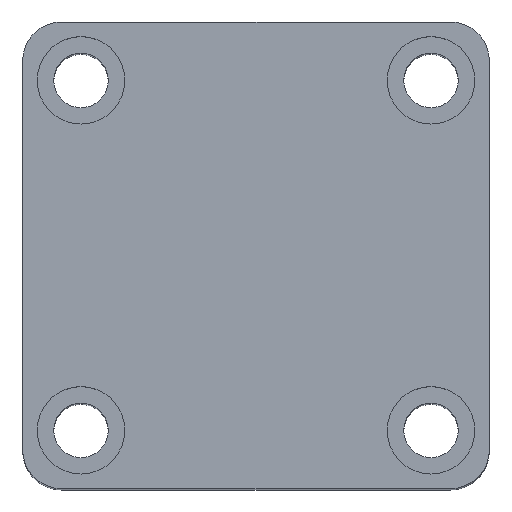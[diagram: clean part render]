
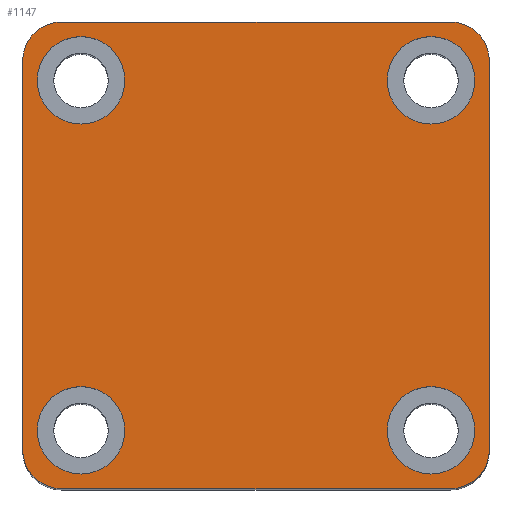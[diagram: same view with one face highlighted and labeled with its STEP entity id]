
A CAD part, top view. The second image highlights one B-rep face of the part: STEP entity #1147.
In plain terms, the highlighted planar face has unit normal (0, 0, 1).
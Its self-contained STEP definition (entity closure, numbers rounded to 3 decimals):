
#18 = VERTEX_POINT ( 'NONE', #1489 ) ;
#23 = VERTEX_POINT ( 'NONE', #1485 ) ;
#40 = VERTEX_POINT ( 'NONE', #1419 ) ;
#49 = VERTEX_POINT ( 'NONE', #1428 ) ;
#56 = VERTEX_POINT ( 'NONE', #1409 ) ;
#68 = VERTEX_POINT ( 'NONE', #1372 ) ;
#73 = VERTEX_POINT ( 'NONE', #1370 ) ;
#74 = VERTEX_POINT ( 'NONE', #1382 ) ;
#76 = VERTEX_POINT ( 'NONE', #1369 ) ;
#101 = VERTEX_POINT ( 'NONE', #1334 ) ;
#125 = VERTEX_POINT ( 'NONE', #1289 ) ;
#128 = VERTEX_POINT ( 'NONE', #1287 ) ;
#141 = VERTEX_POINT ( 'NONE', #1254 ) ;
#145 = VERTEX_POINT ( 'NONE', #1247 ) ;
#148 = VERTEX_POINT ( 'NONE', #1242 ) ;
#149 = VERTEX_POINT ( 'NONE', #1237 ) ;
#336 = ORIENTED_EDGE ( 'NONE', *, *, #623, .F. ) ;
#338 = ORIENTED_EDGE ( 'NONE', *, *, #737, .F. ) ;
#339 = ORIENTED_EDGE ( 'NONE', *, *, #2772, .F. ) ;
#340 = ORIENTED_EDGE ( 'NONE', *, *, #724, .F. ) ;
#535 = CIRCLE ( 'NONE', #1710, 4.5 ) ;
#619 = AXIS2_PLACEMENT_3D ( 'NONE', #1570, #1569, #1568 ) ;
#623 = EDGE_CURVE ( 'NONE', #101, #125, #888, .T. ) ;
#666 = EDGE_CURVE ( 'NONE', #18, #149, #844, .T. ) ;
#698 = EDGE_CURVE ( 'NONE', #148, #23, #807, .T. ) ;
#705 = EDGE_CURVE ( 'NONE', #141, #40, #797, .T. ) ;
#708 = EDGE_CURVE ( 'NONE', #73, #74, #793, .T. ) ;
#711 = EDGE_CURVE ( 'NONE', #76, #148, #790, .T. ) ;
#713 = EDGE_CURVE ( 'NONE', #40, #141, #789, .T. ) ;
#724 = EDGE_CURVE ( 'NONE', #56, #128, #778, .T. ) ;
#726 = EDGE_CURVE ( 'NONE', #145, #76, #770, .T. ) ;
#730 = EDGE_CURVE ( 'NONE', #23, #49, #765, .T. ) ;
#736 = EDGE_CURVE ( 'NONE', #68, #145, #758, .T. ) ;
#737 = EDGE_CURVE ( 'NONE', #125, #101, #762, .T. ) ;
#748 = EDGE_CURVE ( 'NONE', #74, #68, #2068, .T. ) ;
#750 = EDGE_CURVE ( 'NONE', #149, #18, #2069, .T. ) ;
#754 = EDGE_CURVE ( 'NONE', #49, #73, #2061, .T. ) ;
#758 = CIRCLE ( 'NONE', #1797, 4. ) ;
#762 = CIRCLE ( 'NONE', #1796, 4.5 ) ;
#765 = CIRCLE ( 'NONE', #1800, 4. ) ;
#766 = VECTOR ( 'NONE', #2673, 1000. ) ;
#770 = LINE ( 'NONE', #2680, #766 ) ;
#778 = CIRCLE ( 'NONE', #1804, 4.5 ) ;
#789 = CIRCLE ( 'NONE', #1809, 4.5 ) ;
#790 = CIRCLE ( 'NONE', #1810, 4. ) ;
#793 = CIRCLE ( 'NONE', #1813, 4. ) ;
#797 = CIRCLE ( 'NONE', #1816, 4.5 ) ;
#805 = VECTOR ( 'NONE', #1308, 1000. ) ;
#807 = LINE ( 'NONE', #1312, #805 ) ;
#844 = CIRCLE ( 'NONE', #1579, 4.5 ) ;
#888 = CIRCLE ( 'NONE', #619, 4.5 ) ;
#905 = EDGE_LOOP ( 'NONE', ( #1020, #1066 ) ) ;
#934 = EDGE_LOOP ( 'NONE', ( #340, #339 ) ) ;
#1004 = EDGE_LOOP ( 'NONE', ( #1026, #1037, #1089, #1090, #1087, #1088, #1085, #1086 ) ) ;
#1005 = EDGE_LOOP ( 'NONE', ( #338, #336 ) ) ;
#1007 = EDGE_LOOP ( 'NONE', ( #1117, #1104 ) ) ;
#1020 = ORIENTED_EDGE ( 'NONE', *, *, #750, .F. ) ;
#1026 = ORIENTED_EDGE ( 'NONE', *, *, #754, .T. ) ;
#1037 = ORIENTED_EDGE ( 'NONE', *, *, #708, .T. ) ;
#1066 = ORIENTED_EDGE ( 'NONE', *, *, #666, .F. ) ;
#1085 = ORIENTED_EDGE ( 'NONE', *, *, #698, .T. ) ;
#1086 = ORIENTED_EDGE ( 'NONE', *, *, #730, .T. ) ;
#1087 = ORIENTED_EDGE ( 'NONE', *, *, #726, .T. ) ;
#1088 = ORIENTED_EDGE ( 'NONE', *, *, #711, .T. ) ;
#1089 = ORIENTED_EDGE ( 'NONE', *, *, #748, .T. ) ;
#1090 = ORIENTED_EDGE ( 'NONE', *, *, #736, .T. ) ;
#1104 = ORIENTED_EDGE ( 'NONE', *, *, #713, .F. ) ;
#1117 = ORIENTED_EDGE ( 'NONE', *, *, #705, .F. ) ;
#1147 = ADVANCED_FACE ( 'NONE', ( #2018, #2010, #2015, #2011, #2013 ), #2189, .T. ) ;
#1232 = DIRECTION ( 'NONE',  ( 1., 0., 0. ) ) ;
#1233 = DIRECTION ( 'NONE',  ( 0., 0., 1. ) ) ;
#1237 = CARTESIAN_POINT ( 'NONE',  ( -13.5, -18., 80. ) ) ;
#1238 = CARTESIAN_POINT ( 'NONE',  ( 18., -18., 80. ) ) ;
#1240 = DIRECTION ( 'NONE',  ( 1., 0., 0. ) ) ;
#1241 = DIRECTION ( 'NONE',  ( 0., 0., 1. ) ) ;
#1242 = CARTESIAN_POINT ( 'NONE',  ( 24., -20., 80. ) ) ;
#1243 = CARTESIAN_POINT ( 'NONE',  ( 20., -20., 80. ) ) ;
#1247 = CARTESIAN_POINT ( 'NONE',  ( -20., -24., 80. ) ) ;
#1254 = CARTESIAN_POINT ( 'NONE',  ( 22.5, -18., 80. ) ) ;
#1258 = DIRECTION ( 'NONE',  ( 1., 0., 0. ) ) ;
#1259 = DIRECTION ( 'NONE',  ( 0., 0., 1. ) ) ;
#1260 = CARTESIAN_POINT ( 'NONE',  ( -20., 20., 80. ) ) ;
#1273 = DIRECTION ( 'NONE',  ( 1., 0., 0. ) ) ;
#1274 = DIRECTION ( 'NONE',  ( 0., 0., 1. ) ) ;
#1275 = CARTESIAN_POINT ( 'NONE',  ( 18., -18., 80. ) ) ;
#1287 = CARTESIAN_POINT ( 'NONE',  ( -22.5, 18., 80. ) ) ;
#1289 = CARTESIAN_POINT ( 'NONE',  ( 22.5, 18., 80. ) ) ;
#1308 = DIRECTION ( 'NONE',  ( 0., 1., 0. ) ) ;
#1312 = CARTESIAN_POINT ( 'NONE',  ( 24., 24., 80. ) ) ;
#1334 = CARTESIAN_POINT ( 'NONE',  ( 13.5, 18., 80. ) ) ;
#1369 = CARTESIAN_POINT ( 'NONE',  ( 20., -24., 80. ) ) ;
#1370 = CARTESIAN_POINT ( 'NONE',  ( -20., 24., 80. ) ) ;
#1372 = CARTESIAN_POINT ( 'NONE',  ( -24., -20., 80. ) ) ;
#1382 = CARTESIAN_POINT ( 'NONE',  ( -24., 20., 80. ) ) ;
#1409 = CARTESIAN_POINT ( 'NONE',  ( -13.5, 18., 80. ) ) ;
#1419 = CARTESIAN_POINT ( 'NONE',  ( 13.5, -18., 80. ) ) ;
#1428 = CARTESIAN_POINT ( 'NONE',  ( 20., 24., 80. ) ) ;
#1435 = DIRECTION ( 'NONE',  ( 1., 0., 0. ) ) ;
#1437 = DIRECTION ( 'NONE',  ( 0., 0., 1. ) ) ;
#1438 = CARTESIAN_POINT ( 'NONE',  ( -18., -18., 80. ) ) ;
#1485 = CARTESIAN_POINT ( 'NONE',  ( 24., 20., 80. ) ) ;
#1489 = CARTESIAN_POINT ( 'NONE',  ( -22.5, -18., 80. ) ) ;
#1568 = DIRECTION ( 'NONE',  ( 1., 0., 0. ) ) ;
#1569 = DIRECTION ( 'NONE',  ( 0., 0., 1. ) ) ;
#1570 = CARTESIAN_POINT ( 'NONE',  ( 18., 18., 80. ) ) ;
#1579 = AXIS2_PLACEMENT_3D ( 'NONE', #1438, #1437, #1435 ) ;
#1614 = AXIS2_PLACEMENT_3D ( 'NONE', #2199, #2204, #2158 ) ;
#1710 = AXIS2_PLACEMENT_3D ( 'NONE', #2134, #2132, #2131 ) ;
#1789 = AXIS2_PLACEMENT_3D ( 'NONE', #2495, #2492, #2488 ) ;
#1796 = AXIS2_PLACEMENT_3D ( 'NONE', #2594, #2591, #2592 ) ;
#1797 = AXIS2_PLACEMENT_3D ( 'NONE', #2599, #2598, #2597 ) ;
#1800 = AXIS2_PLACEMENT_3D ( 'NONE', #2647, #2643, #2640 ) ;
#1804 = AXIS2_PLACEMENT_3D ( 'NONE', #2686, #2679, #2677 ) ;
#1809 = AXIS2_PLACEMENT_3D ( 'NONE', #1238, #1233, #1232 ) ;
#1810 = AXIS2_PLACEMENT_3D ( 'NONE', #1243, #1241, #1240 ) ;
#1813 = AXIS2_PLACEMENT_3D ( 'NONE', #1260, #1259, #1258 ) ;
#1816 = AXIS2_PLACEMENT_3D ( 'NONE', #1275, #1274, #1273 ) ;
#2010 = FACE_BOUND ( 'NONE', #1005, .T. ) ;
#2011 = FACE_BOUND ( 'NONE', #1007, .T. ) ;
#2013 = FACE_OUTER_BOUND ( 'NONE', #1004, .T. ) ;
#2015 = FACE_BOUND ( 'NONE', #905, .T. ) ;
#2018 = FACE_BOUND ( 'NONE', #934, .T. ) ;
#2058 = VECTOR ( 'NONE', #2450, 1000. ) ;
#2061 = LINE ( 'NONE', #2462, #2058 ) ;
#2066 = VECTOR ( 'NONE', #2543, 1000. ) ;
#2068 = LINE ( 'NONE', #2616, #2066 ) ;
#2069 = CIRCLE ( 'NONE', #1789, 4.5 ) ;
#2131 = DIRECTION ( 'NONE',  ( 1., 0., 0. ) ) ;
#2132 = DIRECTION ( 'NONE',  ( 0., 0., 1. ) ) ;
#2134 = CARTESIAN_POINT ( 'NONE',  ( -18., 18., 80. ) ) ;
#2158 = DIRECTION ( 'NONE',  ( 1., 0., 0. ) ) ;
#2189 = PLANE ( 'NONE',  #1614 ) ;
#2199 = CARTESIAN_POINT ( 'NONE',  ( 0., 0., 80. ) ) ;
#2204 = DIRECTION ( 'NONE',  ( 0., 0., 1. ) ) ;
#2450 = DIRECTION ( 'NONE',  ( -1., 0., 0. ) ) ;
#2462 = CARTESIAN_POINT ( 'NONE',  ( -24., 24., 80. ) ) ;
#2488 = DIRECTION ( 'NONE',  ( 1., 0., 0. ) ) ;
#2492 = DIRECTION ( 'NONE',  ( 0., 0., 1. ) ) ;
#2495 = CARTESIAN_POINT ( 'NONE',  ( -18., -18., 80. ) ) ;
#2543 = DIRECTION ( 'NONE',  ( 0., -1., 0. ) ) ;
#2591 = DIRECTION ( 'NONE',  ( 0., 0., 1. ) ) ;
#2592 = DIRECTION ( 'NONE',  ( 1., 0., 0. ) ) ;
#2594 = CARTESIAN_POINT ( 'NONE',  ( 18., 18., 80. ) ) ;
#2597 = DIRECTION ( 'NONE',  ( 1., 0., 0. ) ) ;
#2598 = DIRECTION ( 'NONE',  ( 0., 0., 1. ) ) ;
#2599 = CARTESIAN_POINT ( 'NONE',  ( -20., -20., 80. ) ) ;
#2616 = CARTESIAN_POINT ( 'NONE',  ( -24., 24., 80. ) ) ;
#2640 = DIRECTION ( 'NONE',  ( 1., 0., 0. ) ) ;
#2643 = DIRECTION ( 'NONE',  ( 0., 0., 1. ) ) ;
#2647 = CARTESIAN_POINT ( 'NONE',  ( 20., 20., 80. ) ) ;
#2673 = DIRECTION ( 'NONE',  ( 1., 0., 0. ) ) ;
#2677 = DIRECTION ( 'NONE',  ( 1., 0., 0. ) ) ;
#2679 = DIRECTION ( 'NONE',  ( 0., 0., 1. ) ) ;
#2680 = CARTESIAN_POINT ( 'NONE',  ( -24., -24., 80. ) ) ;
#2686 = CARTESIAN_POINT ( 'NONE',  ( -18., 18., 80. ) ) ;
#2772 = EDGE_CURVE ( 'NONE', #128, #56, #535, .T. ) ;
